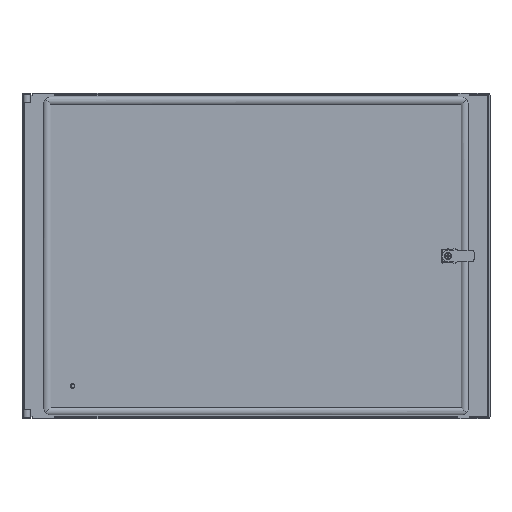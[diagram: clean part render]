
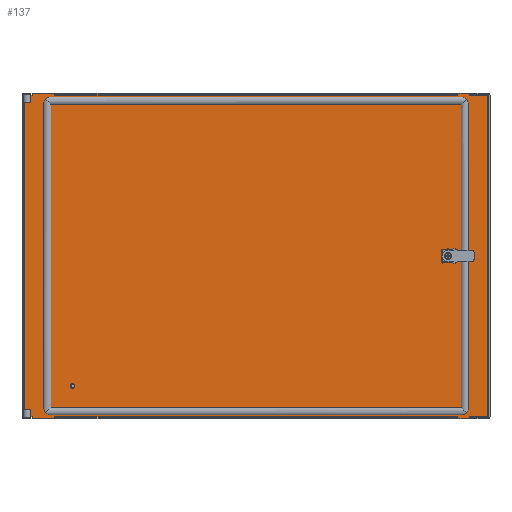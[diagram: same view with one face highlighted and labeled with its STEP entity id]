
A CAD part, top view. The second image highlights one B-rep face of the part: STEP entity #137.
In plain terms, the highlighted planar face has unit normal (0, 0, 1).
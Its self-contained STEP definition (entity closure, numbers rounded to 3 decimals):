
#137=ADVANCED_FACE('',(#702,#704,#706),#708,.T.);
#702=FACE_BOUND('',#703,.T.);
#703=EDGE_LOOP('',(#3435,#3436,#3437,#3438,#3439,#3440,#3441,#3442,#3443,#3444,#3445,
#3446,#3447,#3448,#3449,#3450,#3451,#3452,#3453,#3454,#3455,#3456,#3457,#3458,#3459,
#3460,#3461,#3462));
#704=FACE_BOUND('',#705,.T.);
#705=EDGE_LOOP('',(#3463));
#706=FACE_BOUND('',#707,.T.);
#707=EDGE_LOOP('',(#3464,#3465,#3466,#3467));
#708=PLANE('',#709);
#709=AXIS2_PLACEMENT_3D('',#710,#711,#712);
#710=CARTESIAN_POINT('',(0.,0.,2.));
#711=DIRECTION('',(0.,0.,1.));
#712=DIRECTION('',(1.,0.,0.));
#3435=ORIENTED_EDGE('',*,*,#5245,.F.);
#3436=ORIENTED_EDGE('',*,*,#5225,.F.);
#3437=ORIENTED_EDGE('',*,*,#5152,.F.);
#3438=ORIENTED_EDGE('',*,*,#5246,.F.);
#3439=ORIENTED_EDGE('',*,*,#5247,.F.);
#3440=ORIENTED_EDGE('',*,*,#5248,.F.);
#3441=ORIENTED_EDGE('',*,*,#5249,.F.);
#3442=ORIENTED_EDGE('',*,*,#5221,.F.);
#3443=ORIENTED_EDGE('',*,*,#5156,.F.);
#3444=ORIENTED_EDGE('',*,*,#5250,.F.);
#3445=ORIENTED_EDGE('',*,*,#5251,.F.);
#3446=ORIENTED_EDGE('',*,*,#5252,.F.);
#3447=ORIENTED_EDGE('',*,*,#5253,.F.);
#3448=ORIENTED_EDGE('',*,*,#5254,.F.);
#3449=ORIENTED_EDGE('',*,*,#5255,.F.);
#3450=ORIENTED_EDGE('',*,*,#5176,.F.);
#3451=ORIENTED_EDGE('',*,*,#5149,.F.);
#3452=ORIENTED_EDGE('',*,*,#5256,.T.);
#3453=ORIENTED_EDGE('',*,*,#5257,.T.);
#3454=ORIENTED_EDGE('',*,*,#5258,.T.);
#3455=ORIENTED_EDGE('',*,*,#5143,.F.);
#3456=ORIENTED_EDGE('',*,*,#5174,.F.);
#3457=ORIENTED_EDGE('',*,*,#5141,.F.);
#3458=ORIENTED_EDGE('',*,*,#5259,.T.);
#3459=ORIENTED_EDGE('',*,*,#5260,.T.);
#3460=ORIENTED_EDGE('',*,*,#5261,.T.);
#3461=ORIENTED_EDGE('',*,*,#5135,.F.);
#3462=ORIENTED_EDGE('',*,*,#5182,.F.);
#3463=ORIENTED_EDGE('',*,*,#5133,.F.);
#3464=ORIENTED_EDGE('',*,*,#5262,.F.);
#3465=ORIENTED_EDGE('',*,*,#5263,.F.);
#3466=ORIENTED_EDGE('',*,*,#5264,.F.);
#3467=ORIENTED_EDGE('',*,*,#5265,.F.);
#5133=EDGE_CURVE('',#6052,#6052,#6053,.T.);
#5135=EDGE_CURVE('',#6056,#6057,#6058,.T.);
#5141=EDGE_CURVE('',#6067,#6069,#6070,.T.);
#5143=EDGE_CURVE('',#6072,#6073,#6074,.T.);
#5149=EDGE_CURVE('',#6083,#6085,#6086,.T.);
#5152=EDGE_CURVE('',#6088,#6091,#6092,.T.);
#5156=EDGE_CURVE('',#6096,#6099,#6100,.T.);
#5174=EDGE_CURVE('',#6069,#6072,#6129,.T.);
#5176=EDGE_CURVE('',#6085,#6132,#6133,.T.);
#5182=EDGE_CURVE('',#6141,#6056,#6143,.T.);
#5221=EDGE_CURVE('',#6099,#6206,#6207,.T.);
#5225=EDGE_CURVE('',#6091,#6213,#6214,.T.);
#5245=EDGE_CURVE('',#6213,#6141,#6244,.T.);
#5246=EDGE_CURVE('',#6245,#6088,#6246,.T.);
#5247=EDGE_CURVE('',#6247,#6245,#6248,.T.);
#5248=EDGE_CURVE('',#6249,#6247,#6250,.T.);
#5249=EDGE_CURVE('',#6206,#6249,#6251,.T.);
#5250=EDGE_CURVE('',#6252,#6096,#6253,.T.);
#5251=EDGE_CURVE('',#6254,#6252,#6255,.T.);
#5252=EDGE_CURVE('',#6256,#6254,#6257,.T.);
#5253=EDGE_CURVE('',#6258,#6256,#6259,.T.);
#5254=EDGE_CURVE('',#6260,#6258,#6261,.T.);
#5255=EDGE_CURVE('',#6132,#6260,#6262,.T.);
#5256=EDGE_CURVE('',#6083,#6263,#6264,.T.);
#5257=EDGE_CURVE('',#6263,#6265,#6266,.T.);
#5258=EDGE_CURVE('',#6265,#6073,#6267,.T.);
#5259=EDGE_CURVE('',#6067,#6268,#6269,.T.);
#5260=EDGE_CURVE('',#6268,#6270,#6271,.T.);
#5261=EDGE_CURVE('',#6270,#6057,#6272,.T.);
#5262=EDGE_CURVE('',#6273,#6274,#6275,.T.);
#5263=EDGE_CURVE('',#6276,#6273,#6277,.T.);
#5264=EDGE_CURVE('',#6278,#6276,#6279,.T.);
#5265=EDGE_CURVE('',#6274,#6278,#6280,.T.);
#6052=VERTEX_POINT('',#7567);
#6053=CIRCLE('',#7568,0.5);
#6056=VERTEX_POINT('',#7577);
#6057=VERTEX_POINT('',#7578);
#6058=LINE('',#7579,#7580);
#6067=VERTEX_POINT('',#7598);
#6069=VERTEX_POINT('',#7602);
#6070=LINE('',#7603,#7604);
#6072=VERTEX_POINT('',#7609);
#6073=VERTEX_POINT('',#7610);
#6074=LINE('',#7611,#7612);
#6083=VERTEX_POINT('',#7630);
#6085=VERTEX_POINT('',#7634);
#6086=LINE('',#7635,#7636);
#6088=VERTEX_POINT('',#7641);
#6091=VERTEX_POINT('',#7646);
#6092=LINE('',#7647,#7648);
#6096=VERTEX_POINT('',#7657);
#6099=VERTEX_POINT('',#7662);
#6100=LINE('',#7663,#7664);
#6129=LINE('',#7762,#7763);
#6132=VERTEX_POINT('',#7770);
#6133=LINE('',#7771,#7772);
#6141=VERTEX_POINT('',#7803);
#6143=LINE('',#7820,#7821);
#6206=VERTEX_POINT('',#7979);
#6207=LINE('',#7980,#7981);
#6213=VERTEX_POINT('',#7996);
#6214=LINE('',#7997,#7998);
#6244=LINE('',#8080,#8081);
#6245=VERTEX_POINT('',#8083);
#6246=LINE('',#8084,#8085);
#6247=VERTEX_POINT('',#8087);
#6248=LINE('',#8088,#8089);
#6249=VERTEX_POINT('',#8091);
#6250=LINE('',#8092,#8093);
#6251=LINE('',#8095,#8096);
#6252=VERTEX_POINT('',#8098);
#6253=LINE('',#8099,#8100);
#6254=VERTEX_POINT('',#8102);
#6255=LINE('',#8103,#8104);
#6256=VERTEX_POINT('',#8106);
#6257=LINE('',#8107,#8108);
#6258=VERTEX_POINT('',#8110);
#6259=LINE('',#8111,#8112);
#6260=VERTEX_POINT('',#8114);
#6261=LINE('',#8115,#8116);
#6262=LINE('',#8118,#8119);
#6263=VERTEX_POINT('',#8121);
#6264=LINE('',#8122,#8123);
#6265=VERTEX_POINT('',#8125);
#6266=LINE('',#8126,#8127);
#6267=LINE('',#8129,#8130);
#6268=VERTEX_POINT('',#8132);
#6269=LINE('',#8133,#8134);
#6270=VERTEX_POINT('',#8136);
#6271=LINE('',#8137,#8138);
#6272=LINE('',#8140,#8141);
#6273=VERTEX_POINT('',#8143);
#6274=VERTEX_POINT('',#8144);
#6275=LINE('',#8145,#8146);
#6276=VERTEX_POINT('',#8148);
#6277=LINE('',#8149,#8150);
#6278=VERTEX_POINT('',#8152);
#6279=LINE('',#8153,#8154);
#6280=LINE('',#8156,#8157);
#7567=CARTESIAN_POINT('',(-307.7,-218.5,2.));
#7568=AXIS2_PLACEMENT_3D('',#7569,#7570,#7571);
#7569=CARTESIAN_POINT('',(-308.2,-218.5,2.));
#7570=DIRECTION('',(0.,0.,1.));
#7571=DIRECTION('',(-1.,0.,0.));
#7577=CARTESIAN_POINT('',(360.7,-270.1,2.));
#7578=CARTESIAN_POINT('',(358.7,-270.1,2.));
#7579=CARTESIAN_POINT('',(360.7,-270.1,2.));
#7580=VECTOR('',#7581,1.);
#7581=DIRECTION('',(-1.,0.,0.));
#7598=CARTESIAN_POINT('',(339.2,-270.1,2.));
#7602=CARTESIAN_POINT('',(337.2,-270.1,2.));
#7603=CARTESIAN_POINT('',(339.2,-270.1,2.));
#7604=VECTOR('',#7605,1.);
#7605=DIRECTION('',(-1.,0.,0.));
#7609=CARTESIAN_POINT('',(-336.2,-270.1,2.));
#7610=CARTESIAN_POINT('',(-338.2,-270.1,2.));
#7611=CARTESIAN_POINT('',(-336.2,-270.1,2.));
#7612=VECTOR('',#7613,1.);
#7613=DIRECTION('',(-1.,0.,0.));
#7630=CARTESIAN_POINT('',(-376.2,-270.1,2.));
#7634=CARTESIAN_POINT('',(-378.2,-270.1,2.));
#7635=CARTESIAN_POINT('',(-376.2,-270.1,2.));
#7636=VECTOR('',#7637,1.);
#7637=DIRECTION('',(-1.,0.,0.));
#7641=CARTESIAN_POINT('',(358.7,270.1,2.));
#7646=CARTESIAN_POINT('',(360.7,270.1,2.));
#7647=CARTESIAN_POINT('',(358.7,270.1,2.));
#7648=VECTOR('',#7649,1.);
#7649=DIRECTION('',(1.,0.,0.));
#7657=CARTESIAN_POINT('',(-338.2,270.1,2.));
#7662=CARTESIAN_POINT('',(-336.2,270.1,2.));
#7663=CARTESIAN_POINT('',(-338.2,270.1,2.));
#7664=VECTOR('',#7665,1.);
#7665=DIRECTION('',(1.,0.,0.));
#7762=CARTESIAN_POINT('',(337.2,-270.1,2.));
#7763=VECTOR('',#7764,1.);
#7764=DIRECTION('',(-1.,0.,0.));
#7770=CARTESIAN_POINT('',(-389.8,-270.1,2.));
#7771=CARTESIAN_POINT('',(-378.2,-270.1,2.));
#7772=VECTOR('',#7773,1.);
#7773=DIRECTION('',(-1.,0.,0.));
#7803=CARTESIAN_POINT('',(389.8,-270.1,2.));
#7820=CARTESIAN_POINT('',(389.8,-270.1,2.));
#7821=VECTOR('',#7822,1.);
#7822=DIRECTION('',(-1.,0.,0.));
#7979=CARTESIAN_POINT('',(337.2,270.1,2.));
#7980=CARTESIAN_POINT('',(-336.2,270.1,2.));
#7981=VECTOR('',#7982,1.);
#7982=DIRECTION('',(1.,0.,0.));
#7996=CARTESIAN_POINT('',(389.8,270.1,2.));
#7997=CARTESIAN_POINT('',(360.7,270.1,2.));
#7998=VECTOR('',#7999,1.);
#7999=DIRECTION('',(1.,0.,0.));
#8080=CARTESIAN_POINT('',(389.8,270.1,2.));
#8081=VECTOR('',#8082,1.);
#8082=DIRECTION('',(0.,-1.,0.));
#8083=CARTESIAN_POINT('',(358.7,273.5,2.));
#8084=CARTESIAN_POINT('',(358.7,273.5,2.));
#8085=VECTOR('',#8086,1.);
#8086=DIRECTION('',(0.,-1.,0.));
#8087=CARTESIAN_POINT('',(339.2,273.5,2.));
#8088=CARTESIAN_POINT('',(339.2,273.5,2.));
#8089=VECTOR('',#8090,1.);
#8090=DIRECTION('',(1.,0.,0.));
#8091=CARTESIAN_POINT('',(339.2,270.1,2.));
#8092=CARTESIAN_POINT('',(339.2,270.1,2.));
#8093=VECTOR('',#8094,1.);
#8094=DIRECTION('',(0.,1.,0.));
#8095=CARTESIAN_POINT('',(337.2,270.1,2.));
#8096=VECTOR('',#8097,1.);
#8097=DIRECTION('',(1.,0.,0.));
#8098=CARTESIAN_POINT('',(-338.2,273.5,2.));
#8099=CARTESIAN_POINT('',(-338.2,273.5,2.));
#8100=VECTOR('',#8101,1.);
#8101=DIRECTION('',(0.,-1.,0.));
#8102=CARTESIAN_POINT('',(-376.2,273.5,2.));
#8103=CARTESIAN_POINT('',(-376.2,273.5,2.));
#8104=VECTOR('',#8105,1.);
#8105=DIRECTION('',(1.,0.,0.));
#8106=CARTESIAN_POINT('',(-376.2,270.1,2.));
#8107=CARTESIAN_POINT('',(-376.2,270.1,2.));
#8108=VECTOR('',#8109,1.);
#8109=DIRECTION('',(0.,1.,0.));
#8110=CARTESIAN_POINT('',(-378.2,270.1,2.));
#8111=CARTESIAN_POINT('',(-378.2,270.1,2.));
#8112=VECTOR('',#8113,1.);
#8113=DIRECTION('',(1.,0.,0.));
#8114=CARTESIAN_POINT('',(-389.8,270.1,2.));
#8115=CARTESIAN_POINT('',(-389.8,270.1,2.));
#8116=VECTOR('',#8117,1.);
#8117=DIRECTION('',(1.,0.,0.));
#8118=CARTESIAN_POINT('',(-389.8,-270.1,2.));
#8119=VECTOR('',#8120,1.);
#8120=DIRECTION('',(0.,1.,0.));
#8121=CARTESIAN_POINT('',(-376.2,-273.5,2.));
#8122=CARTESIAN_POINT('',(-376.2,-270.1,2.));
#8123=VECTOR('',#8124,1.);
#8124=DIRECTION('',(0.,-1.,0.));
#8125=CARTESIAN_POINT('',(-338.2,-273.5,2.));
#8126=CARTESIAN_POINT('',(-376.2,-273.5,2.));
#8127=VECTOR('',#8128,1.);
#8128=DIRECTION('',(1.,0.,0.));
#8129=CARTESIAN_POINT('',(-338.2,-273.5,2.));
#8130=VECTOR('',#8131,1.);
#8131=DIRECTION('',(0.,1.,0.));
#8132=CARTESIAN_POINT('',(339.2,-273.5,2.));
#8133=CARTESIAN_POINT('',(339.2,-270.1,2.));
#8134=VECTOR('',#8135,1.);
#8135=DIRECTION('',(0.,-1.,0.));
#8136=CARTESIAN_POINT('',(358.7,-273.5,2.));
#8137=CARTESIAN_POINT('',(339.2,-273.5,2.));
#8138=VECTOR('',#8139,1.);
#8139=DIRECTION('',(1.,0.,0.));
#8140=CARTESIAN_POINT('',(358.7,-273.5,2.));
#8141=VECTOR('',#8142,1.);
#8142=DIRECTION('',(0.,1.,0.));
#8143=CARTESIAN_POINT('',(333.2,-10.6,2.));
#8144=CARTESIAN_POINT('',(333.2,10.6,2.));
#8145=CARTESIAN_POINT('',(333.2,-10.6,2.));
#8146=VECTOR('',#8147,1.);
#8147=DIRECTION('',(0.,1.,0.));
#8148=CARTESIAN_POINT('',(312.,-10.6,2.));
#8149=CARTESIAN_POINT('',(312.,-10.6,2.));
#8150=VECTOR('',#8151,1.);
#8151=DIRECTION('',(1.,0.,0.));
#8152=CARTESIAN_POINT('',(312.,10.6,2.));
#8153=CARTESIAN_POINT('',(312.,10.6,2.));
#8154=VECTOR('',#8155,1.);
#8155=DIRECTION('',(0.,-1.,0.));
#8156=CARTESIAN_POINT('',(333.2,10.6,2.));
#8157=VECTOR('',#8158,1.);
#8158=DIRECTION('',(-1.,0.,0.));
